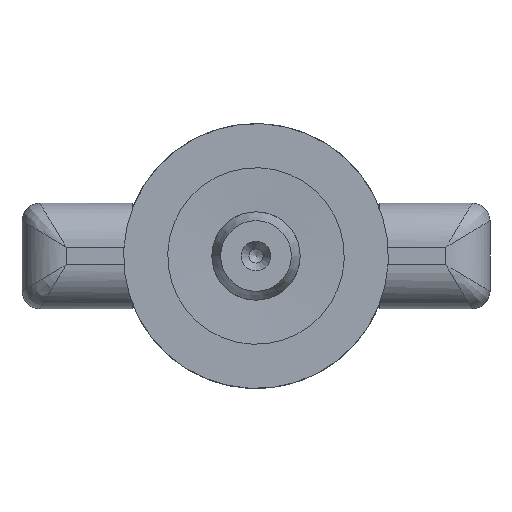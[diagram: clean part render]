
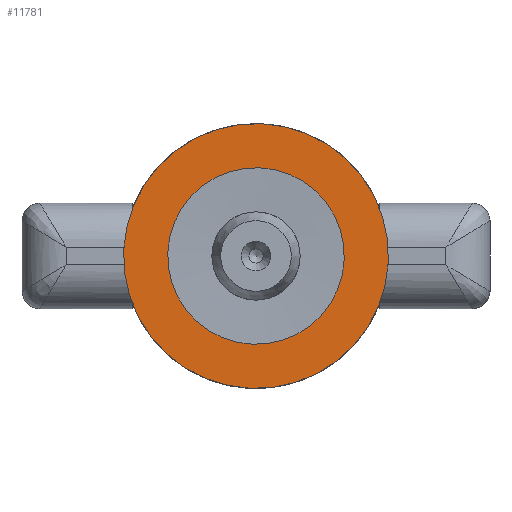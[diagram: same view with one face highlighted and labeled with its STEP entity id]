
A CAD part, front view. The second image highlights one B-rep face of the part: STEP entity #11781.
In plain terms, the highlighted planar face has unit normal (0, -1, 0) as drawn and (0, 0, -1) by its records, which use the part's own axes.
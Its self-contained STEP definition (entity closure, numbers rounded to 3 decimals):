
#287=FACE_BOUND('',#4202,.T.);
#514=PLANE('',#12618);
#3457=FACE_OUTER_BOUND('',#4201,.T.);
#4201=EDGE_LOOP('',(#10042));
#4202=EDGE_LOOP('',(#10043));
#4660=CIRCLE('',#12601,15.);
#4667=CIRCLE('',#12615,10.);
#5520=VERTEX_POINT('',#36849);
#5527=VERTEX_POINT('',#36870);
#7098=EDGE_CURVE('',#5520,#5520,#4660,.T.);
#7105=EDGE_CURVE('',#5527,#5527,#4667,.T.);
#10042=ORIENTED_EDGE('',*,*,#7098,.T.);
#10043=ORIENTED_EDGE('',*,*,#7105,.F.);
#11781=ADVANCED_FACE('',(#3457,#287),#514,.F.);
#12601=AXIS2_PLACEMENT_3D('',#36850,#14353,#14354);
#12615=AXIS2_PLACEMENT_3D('',#36871,#14381,#14382);
#12618=AXIS2_PLACEMENT_3D('',#36875,#14387,#14388);
#14353=DIRECTION('center_axis',(0.,0.,-1.));
#14354=DIRECTION('ref_axis',(-1.,0.,0.));
#14381=DIRECTION('center_axis',(0.,0.,-1.));
#14382=DIRECTION('ref_axis',(-1.,0.,0.));
#14387=DIRECTION('center_axis',(0.,0.,1.));
#14388=DIRECTION('ref_axis',(1.,0.,0.));
#36849=CARTESIAN_POINT('',(15.,0.,0.));
#36850=CARTESIAN_POINT('Origin',(0.,0.,0.));
#36870=CARTESIAN_POINT('',(10.,0.,0.));
#36871=CARTESIAN_POINT('Origin',(0.,0.,0.));
#36875=CARTESIAN_POINT('Origin',(0.,0.,0.));
